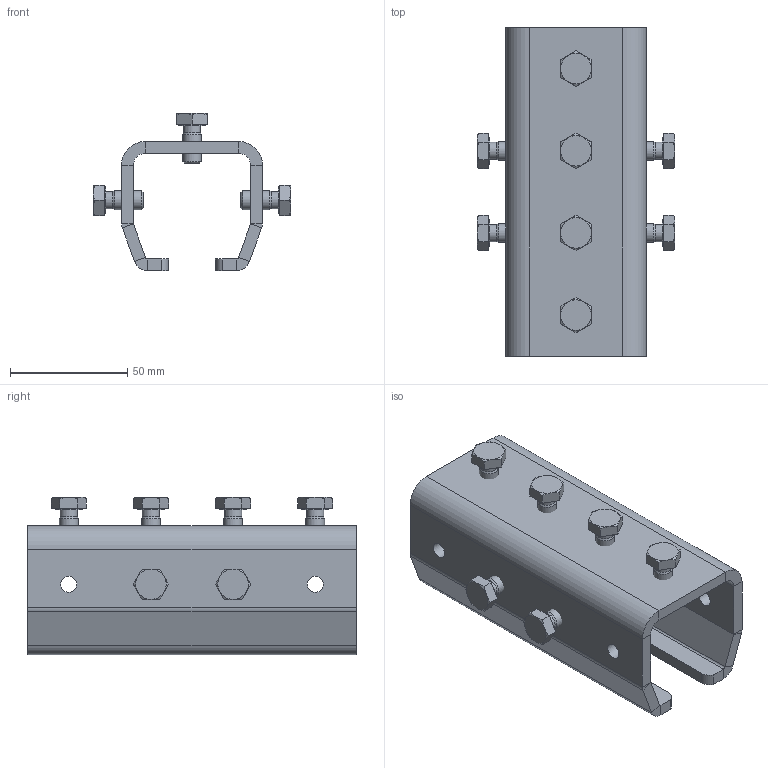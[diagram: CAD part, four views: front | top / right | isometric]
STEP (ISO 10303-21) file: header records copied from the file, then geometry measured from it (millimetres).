
FILE_DESCRIPTION(/* description */ ('Muffe Nr.2_lang'),/* implementation_level */ '2;1');
FILE_NAME(/* name */ 'Q:\sge-ma\Produktmanagement-STB\STB\Workspace\stp\010335120.stp',/* time_stamp */ '2016-07-13T12:58:25+02:00',/* author */ ('avschreier'),/* organization */ (''),/* preprocessor_version */ 'ST-DEVELOPER v16.1',/* originating_system */ 'Autodesk Inventor 2016',/* authorisation */ '');
FILE_SCHEMA (('AUTOMOTIVE_DESIGN { 1 0 10303 214 3 1 1 }'));
Length unit declared in the file: millimetre
Products named in the file (3): 337000117; DIN_EN_ISO_4017-M8x16_en; 010335120
Assembly tree (9 placements, depth 2):
  010335120
    337000117
    DIN_EN_ISO_4017-M8x16_en  x8
Bounding box: 84.1 x 140 x 67.05 mm (x, y, z)
Volume: 130391 mm3; surface area: 58946.2 mm2
Topology: 9 solids, 9 shells, 238 faces, 500 edges, 296 vertices
Faces by surface type: plane 122, cone 64, cylinder 52
Full cylindrical faces by diameter (mm): 6.647 x8, 6.8 x4, 7.323 x8, 8 x8, 11.4 x8
Entity records: 2504 total; most frequent: DIRECTION 444, CARTESIAN_POINT 421, ORIENTED_EDGE 362, EDGE_CURVE 181, AXIS2_PLACEMENT_3D 172, EDGE_LOOP 134, VERTEX_POINT 113, LINE 100
